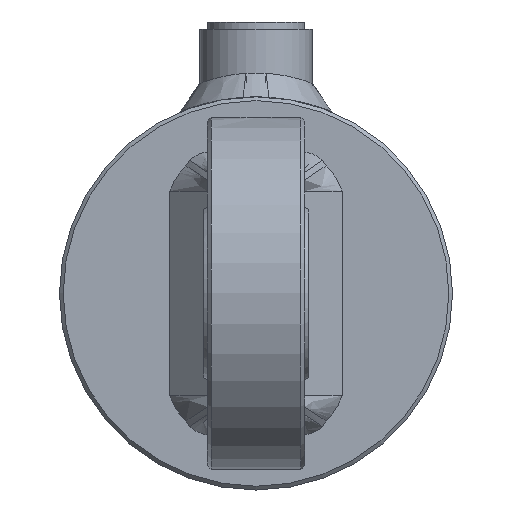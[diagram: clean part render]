
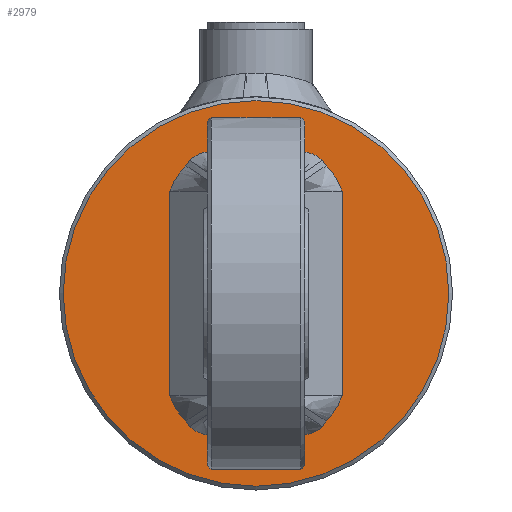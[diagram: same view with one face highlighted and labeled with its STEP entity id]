
A CAD part, left-side view. The second image highlights one B-rep face of the part: STEP entity #2979.
In plain terms, the highlighted planar face has unit normal (-1, 0, 0).
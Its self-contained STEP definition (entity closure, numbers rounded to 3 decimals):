
#2979 = ADVANCED_FACE( '', ( #9494 ), #9495, .T. );
#9494 = FACE_OUTER_BOUND( '', #11504, .T. );
#9495 = PLANE( '', #11505 );
#11504 = EDGE_LOOP( '', ( #12512 ) );
#11505 = AXIS2_PLACEMENT_3D( '', #12513, #12514, #12515 );
#12512 = ORIENTED_EDGE( '', *, *, #13852, .T. );
#12513 = CARTESIAN_POINT( '', ( -15., 0., 0. ) );
#12514 = DIRECTION( '', ( -1., 0., 0. ) );
#12515 = DIRECTION( '', ( 0., -1., 0. ) );
#13852 = EDGE_CURVE( '', #17730, #17730, #17731, .T. );
#17730 = VERTEX_POINT( '', #18403 );
#17731 = CIRCLE( '', #18404, 51.5 );
#18403 = CARTESIAN_POINT( '', ( -15., -51.5, 0. ) );
#18404 = AXIS2_PLACEMENT_3D( '', #18557, #18558, #18559 );
#18557 = CARTESIAN_POINT( '', ( -15., 0., 0. ) );
#18558 = DIRECTION( '', ( -1., 0., 0. ) );
#18559 = DIRECTION( '', ( 0., -1., 0. ) );
